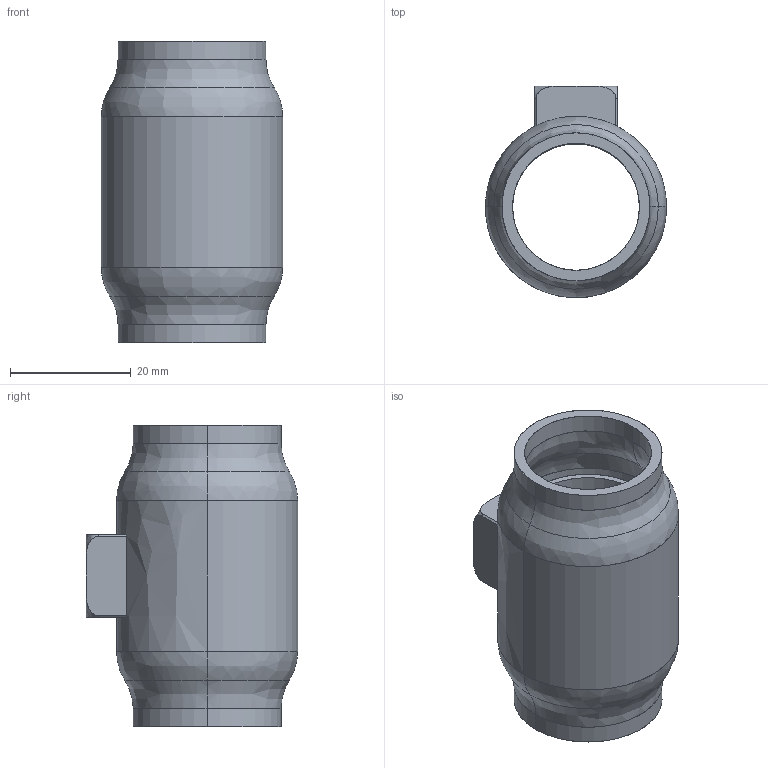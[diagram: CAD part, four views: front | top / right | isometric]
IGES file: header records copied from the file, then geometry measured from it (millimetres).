
Start section: SolidWorks IGES file using analytic representation for surfaces
Global section: file name: C:\HEMSIDA\cad\SLDPRT_2010\wn600\\wn600-20.igs; native system: SolidWorks 2010; preprocessor: SolidWorks 2010; author: Administrator; date: 101214.114935; units: millimetre
Bounding box: 30 x 35 x 50 mm (x, y, z)
Surface area: 12735.3 mm2 (no closed solid volume)
Topology: 0 solids, 0 shells, 56 faces, 828 edges, 828 vertices
Faces by surface type: bspline 29, revolution 27
